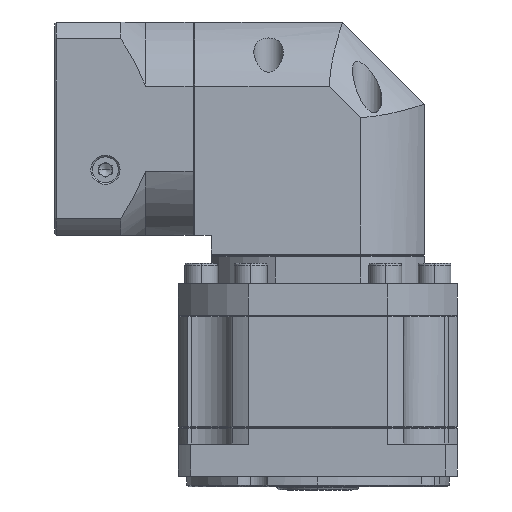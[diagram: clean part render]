
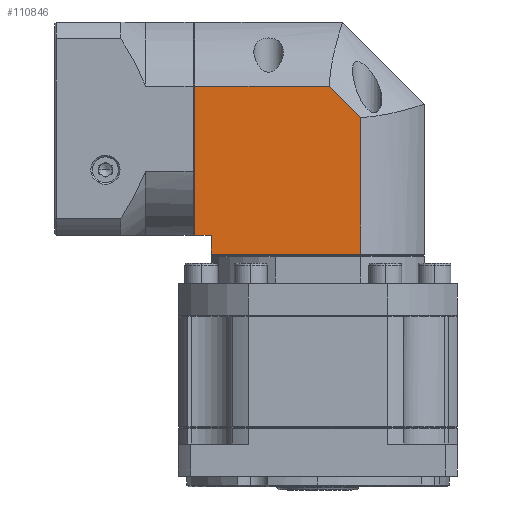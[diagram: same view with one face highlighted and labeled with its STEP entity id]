
A CAD part, left-side view. The second image highlights one B-rep face of the part: STEP entity #110846.
In plain terms, the highlighted planar face has unit normal (-1, 0, 0).
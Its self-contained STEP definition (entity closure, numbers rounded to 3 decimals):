
#1508 = EDGE_CURVE ( 'NONE', #119676, #99186, #57770, .T. ) ;
#2564 = CARTESIAN_POINT ( 'NONE',  ( -120.118, -7.373, 56.544 ) ) ;
#3611 = LINE ( 'NONE', #2564, #63143 ) ;
#6920 = CARTESIAN_POINT ( 'NONE',  ( -120.118, 43.118, -8.456 ) ) ;
#7892 = ORIENTED_EDGE ( 'NONE', *, *, #93203, .F. ) ;
#14857 = DIRECTION ( 'NONE',  ( 0., -1., 0. ) ) ;
#14909 = PLANE ( 'NONE',  #96112 ) ;
#18721 = VECTOR ( 'NONE', #78717, 1000. ) ;
#25263 = DIRECTION ( 'NONE',  ( 0., 0., -1. ) ) ;
#25792 = VECTOR ( 'NONE', #54832, 1000. ) ;
#26747 = DIRECTION ( 'NONE',  ( 0., 0., -1. ) ) ;
#35753 = ORIENTED_EDGE ( 'NONE', *, *, #119745, .F. ) ;
#36378 = LINE ( 'NONE', #90574, #102252 ) ;
#37539 = DIRECTION ( 'NONE',  ( 0., 1., 0. ) ) ;
#40677 = EDGE_CURVE ( 'NONE', #118497, #99186, #97968, .T. ) ;
#41636 = VECTOR ( 'NONE', #37539, 1000. ) ;
#44466 = CARTESIAN_POINT ( 'NONE',  ( -120.118, -26.882, -14.156 ) ) ;
#44548 = DIRECTION ( 'NONE',  ( -1., 0., 0. ) ) ;
#46032 = LINE ( 'NONE', #129502, #18721 ) ;
#47583 = VECTOR ( 'NONE', #14857, 1000. ) ;
#48286 = VERTEX_POINT ( 'NONE', #121393 ) ;
#51492 = EDGE_LOOP ( 'NONE', ( #113001, #7892, #93433, #78655, #35753, #103746, #122186 ) ) ;
#52984 = VECTOR ( 'NONE', #26747, 1000. ) ;
#54832 = DIRECTION ( 'NONE',  ( 0., -1., 0. ) ) ;
#57770 = LINE ( 'NONE', #6920, #52984 ) ;
#58186 = FACE_OUTER_BOUND ( 'NONE', #51492, .T. ) ;
#59131 = EDGE_CURVE ( 'NONE', #48286, #64626, #36378, .T. ) ;
#63143 = VECTOR ( 'NONE', #64628, 1000. ) ;
#64626 = VERTEX_POINT ( 'NONE', #116482 ) ;
#64628 = DIRECTION ( 'NONE',  ( 0., 0., -1. ) ) ;
#65327 = CARTESIAN_POINT ( 'NONE',  ( -120.118, -26.882, 37.035 ) ) ;
#78655 = ORIENTED_EDGE ( 'NONE', *, *, #40677, .F. ) ;
#78717 = DIRECTION ( 'NONE',  ( 0., 0., 1. ) ) ;
#80708 = VERTEX_POINT ( 'NONE', #84894 ) ;
#83238 = EDGE_CURVE ( 'NONE', #64626, #80708, #3611, .T. ) ;
#84894 = CARTESIAN_POINT ( 'NONE',  ( -120.118, -7.373, -14.156 ) ) ;
#90574 = CARTESIAN_POINT ( 'NONE',  ( -120.118, -368.677, -333.767 ) ) ;
#91063 = LINE ( 'NONE', #65327, #47583 ) ;
#93203 = EDGE_CURVE ( 'NONE', #119676, #48286, #91063, .T. ) ;
#93433 = ORIENTED_EDGE ( 'NONE', *, *, #1508, .T. ) ;
#96112 = AXIS2_PLACEMENT_3D ( 'NONE', #96686, #44548, #25263 ) ;
#96686 = CARTESIAN_POINT ( 'NONE',  ( -120.118, -26.882, -18.456 ) ) ;
#97943 = EDGE_CURVE ( 'NONE', #105657, #80708, #111080, .T. ) ;
#97968 = LINE ( 'NONE', #99101, #41636 ) ;
#99101 = CARTESIAN_POINT ( 'NONE',  ( -120.118, -26.882, -8.456 ) ) ;
#99186 = VERTEX_POINT ( 'NONE', #110296 ) ;
#102252 = VECTOR ( 'NONE', #131069, 1000. ) ;
#103746 = ORIENTED_EDGE ( 'NONE', *, *, #97943, .T. ) ;
#105657 = VERTEX_POINT ( 'NONE', #113507 ) ;
#110296 = CARTESIAN_POINT ( 'NONE',  ( -120.118, 43.118, -8.456 ) ) ;
#110846 = ADVANCED_FACE ( 'NONE', ( #58186 ), #14909, .T. ) ;
#111080 = LINE ( 'NONE', #44466, #25792 ) ;
#113001 = ORIENTED_EDGE ( 'NONE', *, *, #59131, .F. ) ;
#113507 = CARTESIAN_POINT ( 'NONE',  ( -120.118, 38.118, -14.156 ) ) ;
#116482 = CARTESIAN_POINT ( 'NONE',  ( -120.118, -7.373, 27.537 ) ) ;
#118497 = VERTEX_POINT ( 'NONE', #125794 ) ;
#119676 = VERTEX_POINT ( 'NONE', #127716 ) ;
#119745 = EDGE_CURVE ( 'NONE', #105657, #118497, #46032, .T. ) ;
#121393 = CARTESIAN_POINT ( 'NONE',  ( -120.118, 2.125, 37.035 ) ) ;
#122186 = ORIENTED_EDGE ( 'NONE', *, *, #83238, .F. ) ;
#125794 = CARTESIAN_POINT ( 'NONE',  ( -120.118, 38.118, -8.456 ) ) ;
#127716 = CARTESIAN_POINT ( 'NONE',  ( -120.118, 43.118, 37.035 ) ) ;
#129502 = CARTESIAN_POINT ( 'NONE',  ( -120.118, 38.118, -18.456 ) ) ;
#131069 = DIRECTION ( 'NONE',  ( 0., -0.707, -0.707 ) ) ;
